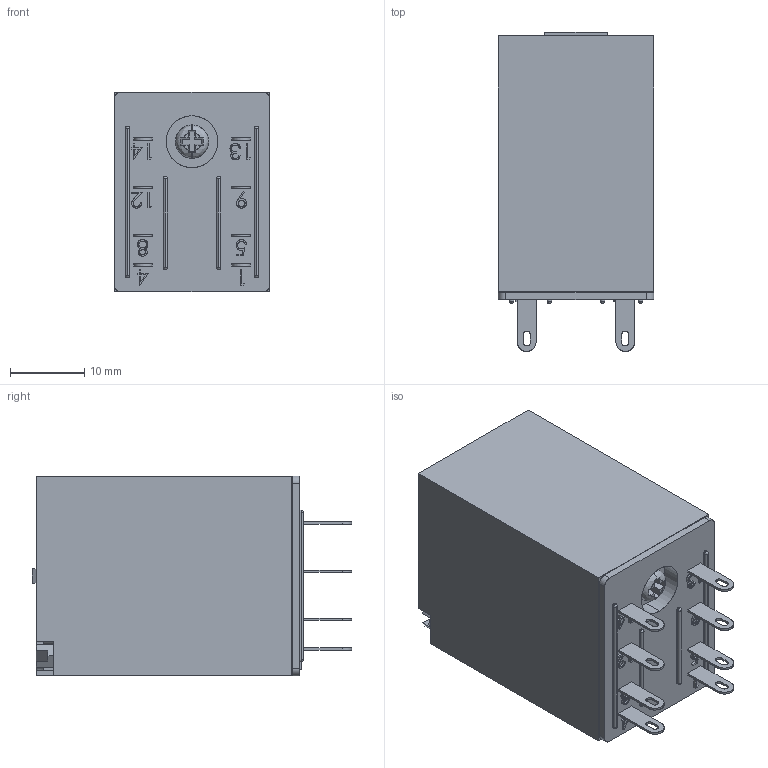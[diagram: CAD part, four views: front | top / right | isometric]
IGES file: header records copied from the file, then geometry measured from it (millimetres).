
Start section: SolidWorks IGES file using analytic representation for surfaces
Global section: file name: D:\X - Arquivos\PROEX\Empresas\P11 - METALTEX\01 - Produtos\IGES\7ª remessa\2ª etapa\TNA2RC3.IGS; native system: SolidWorks 2012; preprocessor: SolidWorks 2012; author: Usuario; date: 190912.140950; units: millimetre
Bounding box: 21 x 43.1 x 27 mm (x, y, z)
Surface area: 5244.6 mm2 (no closed solid volume)
Topology: 0 solids, 0 shells, 424 faces, 3864 edges, 3856 vertices
Faces by surface type: bspline 359, revolution 65
